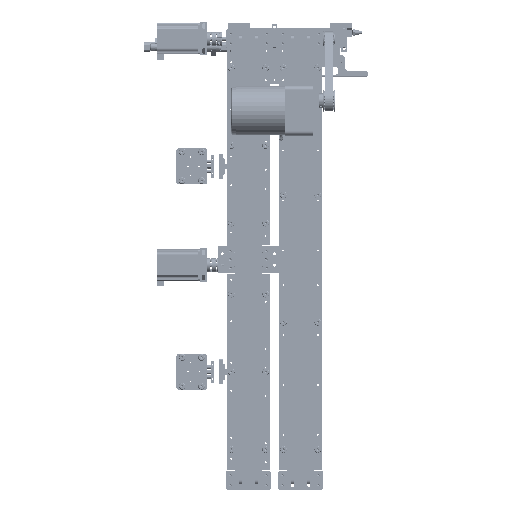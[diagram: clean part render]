
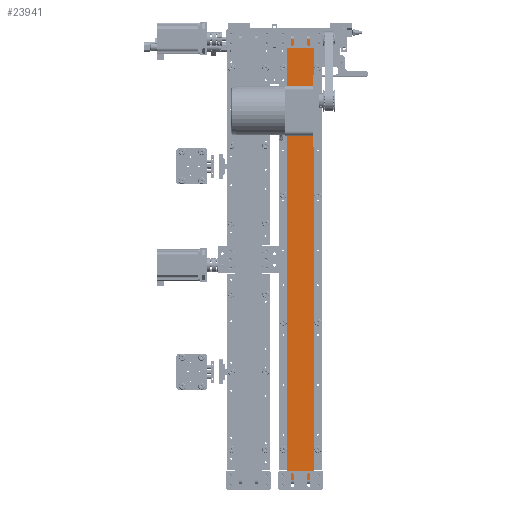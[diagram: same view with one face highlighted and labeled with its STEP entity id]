
A CAD part, top view. The second image highlights one B-rep face of the part: STEP entity #23941.
In plain terms, the highlighted planar face has unit normal (0, 0, 1) as drawn and (0, 1, 0) by its records, which use the part's own axes.
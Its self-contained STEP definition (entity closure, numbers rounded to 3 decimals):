
#5354=PLANE('',#83104);
#12505=LINE('',#126643,#17897);
#12508=LINE('',#126654,#17900);
#12512=LINE('',#126667,#17904);
#12514=LINE('',#126671,#17906);
#17897=VECTOR('',#99237,1.);
#17900=VECTOR('',#99248,1.);
#17904=VECTOR('',#99260,1.);
#17906=VECTOR('',#99266,1.);
#23941=ADVANCED_FACE('',(#27976),#5354,.F.);
#27976=FACE_OUTER_BOUND('',#32486,.T.);
#32486=EDGE_LOOP('',(#46537,#46538,#46539,#46540));
#46537=ORIENTED_EDGE('',*,*,#69405,.T.);
#46538=ORIENTED_EDGE('',*,*,#69412,.F.);
#46539=ORIENTED_EDGE('',*,*,#69399,.F.);
#46540=ORIENTED_EDGE('',*,*,#69414,.T.);
#60188=VERTEX_POINT('',#126638);
#60190=VERTEX_POINT('',#126642);
#60194=VERTEX_POINT('',#126653);
#60195=VERTEX_POINT('',#126655);
#69399=EDGE_CURVE('',#60190,#60188,#12505,.T.);
#69405=EDGE_CURVE('',#60195,#60194,#12508,.T.);
#69412=EDGE_CURVE('',#60188,#60194,#12512,.T.);
#69414=EDGE_CURVE('',#60190,#60195,#12514,.T.);
#83104=AXIS2_PLACEMENT_3D('',#126673,#99269,#99270);
#99237=DIRECTION('',(-1.,0.,0.));
#99248=DIRECTION('',(-1.,0.,0.));
#99260=DIRECTION('',(0.,0.,-1.));
#99266=DIRECTION('',(0.,0.,-1.));
#99269=DIRECTION('',(0.,-1.,0.));
#99270=DIRECTION('',(-1.,0.,0.));
#126638=CARTESIAN_POINT('',(0.,6.,24.5));
#126642=CARTESIAN_POINT('',(796.,6.,24.5));
#126643=CARTESIAN_POINT('',(0.,6.,24.5));
#126653=CARTESIAN_POINT('',(0.,6.,-24.5));
#126654=CARTESIAN_POINT('',(0.,6.,-24.5));
#126655=CARTESIAN_POINT('',(796.,6.,-24.5));
#126667=CARTESIAN_POINT('',(0.,6.,24.5));
#126671=CARTESIAN_POINT('',(796.,6.,24.5));
#126673=CARTESIAN_POINT('',(0.,6.,24.5));
